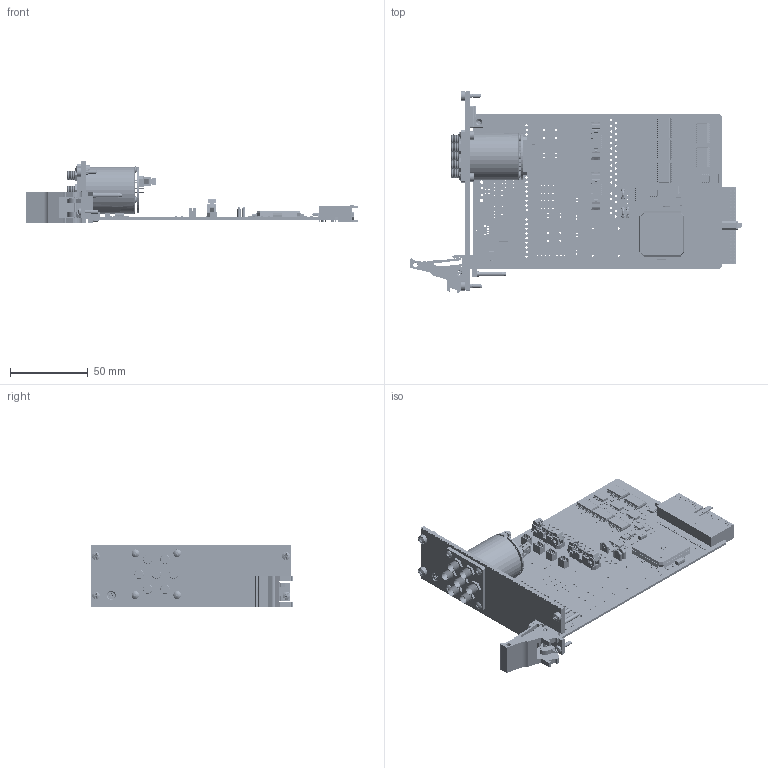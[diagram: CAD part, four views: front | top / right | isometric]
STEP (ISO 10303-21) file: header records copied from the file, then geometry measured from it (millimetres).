
FILE_DESCRIPTION (( 'STEP AP214' ), '1' );
FILE_NAME ('40-784-041 PXI uWave Single 1xSP6T 40GHz MUX SMA 2.9.STEP', '2013-09-20T14:54:56', ( 'admin' ), ( '' ), 'SwSTEP 2.0', 'SolidWorks 2012', '' );
FILE_SCHEMA (( 'AUTOMOTIVE_DESIGN' ));
Length unit declared in the file: millimetre
Products named in the file (1): 40-784-041 PXI uWave Single  1xSP6T 40GHz MUX SMA 2.9
Bounding box: 214.01 x 129.87 x 40 mm (x, y, z)
Surface area: 92974.3 mm2 (no closed solid volume)
Topology: 0 solids, 223 shells, 13555 faces, 34879 edges, 22222 vertices
Faces by surface type: plane 9929, cylinder 2389, cone 576, bspline 498, torus 138, sphere 25
Full cylindrical faces by diameter (mm): 0.152 x2, 0.2 x4, 0.278 x3, 0.28 x7, 0.5 x5, 0.6 x110, 0.635 x8, 0.64 x16, 0.66 x16, 0.75 x72, 0.8 x18, 0.9 x19, 0.92 x4, 0.98 x1, 0.996 x7, 1 x24, 1.011 x16, 1.073 x1, 1.2 x8, 1.3 x8, 1.496 x2, 1.5 x59, 1.519 x2, 1.6 x16, 1.721 x10, 1.948 x1, 2 x16, 2.05 x6, 2.1 x3, 2.16 x2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
Entity records: 585057 total; most frequent: CARTESIAN_POINT 110800, ORIENTED_EDGE 66844, DIRECTION 63801, EDGE_CURVE 33423, VECTOR 25337, LINE 25337, VERTEX_POINT 22017, AXIS2_PLACEMENT_3D 19232
